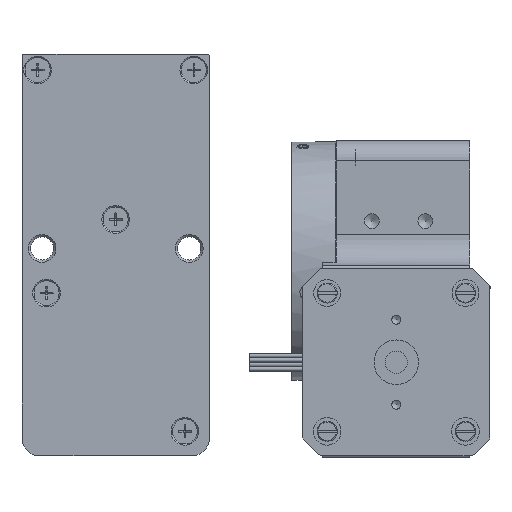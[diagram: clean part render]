
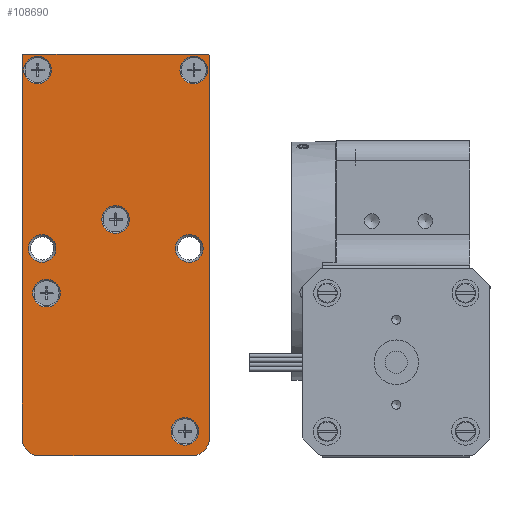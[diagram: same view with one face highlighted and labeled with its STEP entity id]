
A CAD part, left-side view. The second image highlights one B-rep face of the part: STEP entity #108690.
In plain terms, the highlighted planar face has unit normal (-1, 0, 0) as drawn and (0, -1, 0) by its records, which use the part's own axes.
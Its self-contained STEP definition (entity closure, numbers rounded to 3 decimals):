
#53 = EDGE_CURVE ( 'NONE', #93045, #76233, #78821, .T. ) ;
#146 = LINE ( 'NONE', #49999, #90289 ) ;
#351 = EDGE_LOOP ( 'NONE', ( #18074 ) ) ;
#461 = EDGE_LOOP ( 'NONE', ( #35043 ) ) ;
#1886 = DIRECTION ( 'NONE',  ( 0., 1., 0. ) ) ;
#2760 = CIRCLE ( 'NONE', #34567, 3.1 ) ;
#5034 = CARTESIAN_POINT ( 'NONE',  ( -21., 0., -41. ) ) ;
#6063 = DIRECTION ( 'NONE',  ( 0., 0., 1. ) ) ;
#6722 = CIRCLE ( 'NONE', #77523, 3.1 ) ;
#7398 = DIRECTION ( 'NONE',  ( 0., -1., 0. ) ) ;
#7832 = VECTOR ( 'NONE', #60072, 1000. ) ;
#8140 = EDGE_LOOP ( 'NONE', ( #36475 ) ) ;
#8413 = CIRCLE ( 'NONE', #29612, 4. ) ;
#8743 = CARTESIAN_POINT ( 'NONE',  ( 16.5, 0., 1.5 ) ) ;
#10332 = CARTESIAN_POINT ( 'NONE',  ( 17., 0., -45. ) ) ;
#10515 = VERTEX_POINT ( 'NONE', #12162 ) ;
#12029 = DIRECTION ( 'NONE',  ( 0., -1., 0. ) ) ;
#12162 = CARTESIAN_POINT ( 'NONE',  ( 16.5, 0., 4.6 ) ) ;
#12940 = VERTEX_POINT ( 'NONE', #10332 ) ;
#13462 = EDGE_CURVE ( 'NONE', #42922, #42922, #53651, .T. ) ;
#13865 = DIRECTION ( 'NONE',  ( 0., 0., 1. ) ) ;
#15154 = DIRECTION ( 'NONE',  ( 0., 1., 0. ) ) ;
#15787 = CARTESIAN_POINT ( 'NONE',  ( 0., 0., 0. ) ) ;
#18074 = ORIENTED_EDGE ( 'NONE', *, *, #28357, .F. ) ;
#18224 = VECTOR ( 'NONE', #97322, 1000. ) ;
#18595 = CARTESIAN_POINT ( 'NONE',  ( 17.5, 0., 44.6 ) ) ;
#19565 = EDGE_CURVE ( 'NONE', #97748, #83572, #73576, .T. ) ;
#20837 = EDGE_CURVE ( 'NONE', #108268, #93045, #44054, .T. ) ;
#21045 = EDGE_CURVE ( 'NONE', #102748, #102748, #2760, .T. ) ;
#22879 = ORIENTED_EDGE ( 'NONE', *, *, #47290, .F. ) ;
#23017 = FACE_BOUND ( 'NONE', #66240, .T. ) ;
#23999 = CIRCLE ( 'NONE', #89458, 3.1 ) ;
#24122 = FACE_BOUND ( 'NONE', #50689, .T. ) ;
#24526 = ORIENTED_EDGE ( 'NONE', *, *, #79147, .F. ) ;
#24655 = CARTESIAN_POINT ( 'NONE',  ( 21., 0., -41. ) ) ;
#24848 = CARTESIAN_POINT ( 'NONE',  ( 15.5, 0., -39.5 ) ) ;
#26657 = CARTESIAN_POINT ( 'NONE',  ( -16.5, 0., 4.6 ) ) ;
#26756 = CARTESIAN_POINT ( 'NONE',  ( -17., 0., -41. ) ) ;
#27375 = LINE ( 'NONE', #42855, #37133 ) ;
#27881 = CARTESIAN_POINT ( 'NONE',  ( -21., 0., 0. ) ) ;
#28357 = EDGE_CURVE ( 'NONE', #102563, #102563, #6722, .T. ) ;
#29612 = AXIS2_PLACEMENT_3D ( 'NONE', #80576, #15154, #38404 ) ;
#29761 = EDGE_CURVE ( 'NONE', #99508, #57021, #27375, .T. ) ;
#30143 = ORIENTED_EDGE ( 'NONE', *, *, #13462, .F. ) ;
#30353 = DIRECTION ( 'NONE',  ( 0., 0., -1. ) ) ;
#32248 = EDGE_CURVE ( 'NONE', #12940, #108268, #57436, .T. ) ;
#32763 = EDGE_LOOP ( 'NONE', ( #109562, #40445, #57250, #24526, #88184, #76469, #79735, #41385 ) ) ;
#34567 = AXIS2_PLACEMENT_3D ( 'NONE', #85226, #59805, #93517 ) ;
#35043 = ORIENTED_EDGE ( 'NONE', *, *, #92827, .F. ) ;
#36475 = ORIENTED_EDGE ( 'NONE', *, *, #104326, .F. ) ;
#37133 = VECTOR ( 'NONE', #76668, 1000. ) ;
#37361 = AXIS2_PLACEMENT_3D ( 'NONE', #82746, #91539, #98749 ) ;
#37692 = AXIS2_PLACEMENT_3D ( 'NONE', #106421, #89779, #13865 ) ;
#38404 = DIRECTION ( 'NONE',  ( 0., 0., -1. ) ) ;
#40120 = PLANE ( 'NONE',  #87312 ) ;
#40146 = CARTESIAN_POINT ( 'NONE',  ( 0., 0., -45. ) ) ;
#40445 = ORIENTED_EDGE ( 'NONE', *, *, #84325, .F. ) ;
#41137 = DIRECTION ( 'NONE',  ( 0., 0., 1. ) ) ;
#41385 = ORIENTED_EDGE ( 'NONE', *, *, #20837, .F. ) ;
#41427 = VERTEX_POINT ( 'NONE', #41997 ) ;
#41997 = CARTESIAN_POINT ( 'NONE',  ( -17.5, 0., 44.6 ) ) ;
#42737 = CARTESIAN_POINT ( 'NONE',  ( 15.5, 0., -36.4 ) ) ;
#42855 = CARTESIAN_POINT ( 'NONE',  ( 0., 0., 45. ) ) ;
#42922 = VERTEX_POINT ( 'NONE', #59662 ) ;
#44054 = CIRCLE ( 'NONE', #84815, 4. ) ;
#47290 = EDGE_CURVE ( 'NONE', #10515, #10515, #23999, .T. ) ;
#48482 = FACE_OUTER_BOUND ( 'NONE', #32763, .T. ) ;
#48574 = CARTESIAN_POINT ( 'NONE',  ( -20.9, 0., 44.9 ) ) ;
#49999 = CARTESIAN_POINT ( 'NONE',  ( 20.9, 0., 44.9 ) ) ;
#50689 = EDGE_LOOP ( 'NONE', ( #60235 ) ) ;
#51589 = CARTESIAN_POINT ( 'NONE',  ( -15.5, 0., -5.4 ) ) ;
#51690 = DIRECTION ( 'NONE',  ( 0., 0., -1. ) ) ;
#52086 = CIRCLE ( 'NONE', #60729, 3.1 ) ;
#53651 = CIRCLE ( 'NONE', #37692, 3.1 ) ;
#57021 = VERTEX_POINT ( 'NONE', #84933 ) ;
#57250 = ORIENTED_EDGE ( 'NONE', *, *, #19565, .F. ) ;
#57436 = LINE ( 'NONE', #40146, #104778 ) ;
#57944 = FACE_BOUND ( 'NONE', #351, .T. ) ;
#58419 = CARTESIAN_POINT ( 'NONE',  ( -21., 0., 44.8 ) ) ;
#59070 = FACE_BOUND ( 'NONE', #461, .T. ) ;
#59662 = CARTESIAN_POINT ( 'NONE',  ( 0., 0., 11.1 ) ) ;
#59805 = DIRECTION ( 'NONE',  ( 0., -1., 0. ) ) ;
#59950 = VERTEX_POINT ( 'NONE', #51589 ) ;
#60072 = DIRECTION ( 'NONE',  ( 0., 0., 1. ) ) ;
#60235 = ORIENTED_EDGE ( 'NONE', *, *, #87861, .F. ) ;
#60729 = AXIS2_PLACEMENT_3D ( 'NONE', #83331, #7398, #41137 ) ;
#61398 = EDGE_LOOP ( 'NONE', ( #89198 ) ) ;
#62450 = AXIS2_PLACEMENT_3D ( 'NONE', #70310, #86355, #78608 ) ;
#66240 = EDGE_LOOP ( 'NONE', ( #22879 ) ) ;
#66723 = FACE_BOUND ( 'NONE', #8140, .T. ) ;
#69264 = CIRCLE ( 'NONE', #37361, 3.1 ) ;
#69273 = VERTEX_POINT ( 'NONE', #26657 ) ;
#69738 = CARTESIAN_POINT ( 'NONE',  ( -17., 0., -45. ) ) ;
#70310 = CARTESIAN_POINT ( 'NONE',  ( -16.5, 0., 1.5 ) ) ;
#72068 = VECTOR ( 'NONE', #30353, 1000. ) ;
#73576 = LINE ( 'NONE', #81376, #72068 ) ;
#76233 = VERTEX_POINT ( 'NONE', #58419 ) ;
#76469 = ORIENTED_EDGE ( 'NONE', *, *, #80288, .F. ) ;
#76668 = DIRECTION ( 'NONE',  ( 1., 0., 0. ) ) ;
#76904 = CARTESIAN_POINT ( 'NONE',  ( 21., 0., 44.8 ) ) ;
#77523 = AXIS2_PLACEMENT_3D ( 'NONE', #24848, #108505, #6063 ) ;
#78608 = DIRECTION ( 'NONE',  ( 0., 0., 1. ) ) ;
#78821 = LINE ( 'NONE', #27881, #7832 ) ;
#78888 = DIRECTION ( 'NONE',  ( 0., 0., 1. ) ) ;
#79147 = EDGE_CURVE ( 'NONE', #57021, #97748, #146, .T. ) ;
#79328 = DIRECTION ( 'NONE',  ( 0., 1., 0. ) ) ;
#79735 = ORIENTED_EDGE ( 'NONE', *, *, #53, .F. ) ;
#80288 = EDGE_CURVE ( 'NONE', #76233, #99508, #89582, .T. ) ;
#80576 = CARTESIAN_POINT ( 'NONE',  ( 17., 0., -41. ) ) ;
#81376 = CARTESIAN_POINT ( 'NONE',  ( 21., 0., 0. ) ) ;
#81923 = CIRCLE ( 'NONE', #62450, 3.1 ) ;
#82325 = FACE_BOUND ( 'NONE', #104651, .T. ) ;
#82746 = CARTESIAN_POINT ( 'NONE',  ( -15.5, 0., -8.5 ) ) ;
#83331 = CARTESIAN_POINT ( 'NONE',  ( -17.5, 0., 41.5 ) ) ;
#83572 = VERTEX_POINT ( 'NONE', #24655 ) ;
#84325 = EDGE_CURVE ( 'NONE', #83572, #12940, #8413, .T. ) ;
#84815 = AXIS2_PLACEMENT_3D ( 'NONE', #26756, #79328, #51690 ) ;
#84933 = CARTESIAN_POINT ( 'NONE',  ( 20.8, 0., 45. ) ) ;
#85226 = CARTESIAN_POINT ( 'NONE',  ( 17.5, 0., 41.5 ) ) ;
#86355 = DIRECTION ( 'NONE',  ( 0., -1., 0. ) ) ;
#87312 = AXIS2_PLACEMENT_3D ( 'NONE', #15787, #1886, #78888 ) ;
#87861 = EDGE_CURVE ( 'NONE', #69273, #69273, #81923, .T. ) ;
#88184 = ORIENTED_EDGE ( 'NONE', *, *, #29761, .F. ) ;
#89198 = ORIENTED_EDGE ( 'NONE', *, *, #21045, .F. ) ;
#89458 = AXIS2_PLACEMENT_3D ( 'NONE', #8743, #12029, #97296 ) ;
#89582 = LINE ( 'NONE', #48574, #18224 ) ;
#89779 = DIRECTION ( 'NONE',  ( 0., -1., 0. ) ) ;
#90289 = VECTOR ( 'NONE', #99851, 1000. ) ;
#90580 = FACE_BOUND ( 'NONE', #61398, .T. ) ;
#91539 = DIRECTION ( 'NONE',  ( 0., -1., 0. ) ) ;
#91694 = DIRECTION ( 'NONE',  ( -1., 0., 0. ) ) ;
#92827 = EDGE_CURVE ( 'NONE', #59950, #59950, #69264, .T. ) ;
#93045 = VERTEX_POINT ( 'NONE', #5034 ) ;
#93517 = DIRECTION ( 'NONE',  ( 0., 0., 1. ) ) ;
#97296 = DIRECTION ( 'NONE',  ( 0., 0., 1. ) ) ;
#97322 = DIRECTION ( 'NONE',  ( 0.707, 0., 0.707 ) ) ;
#97748 = VERTEX_POINT ( 'NONE', #76904 ) ;
#98749 = DIRECTION ( 'NONE',  ( 0., 0., 1. ) ) ;
#99508 = VERTEX_POINT ( 'NONE', #105030 ) ;
#99851 = DIRECTION ( 'NONE',  ( 0.707, 0., -0.707 ) ) ;
#102563 = VERTEX_POINT ( 'NONE', #42737 ) ;
#102748 = VERTEX_POINT ( 'NONE', #18595 ) ;
#104326 = EDGE_CURVE ( 'NONE', #41427, #41427, #52086, .T. ) ;
#104651 = EDGE_LOOP ( 'NONE', ( #30143 ) ) ;
#104778 = VECTOR ( 'NONE', #91694, 1000. ) ;
#105030 = CARTESIAN_POINT ( 'NONE',  ( -20.8, 0., 45. ) ) ;
#106421 = CARTESIAN_POINT ( 'NONE',  ( 0., 0., 8. ) ) ;
#108268 = VERTEX_POINT ( 'NONE', #69738 ) ;
#108505 = DIRECTION ( 'NONE',  ( 0., -1., 0. ) ) ;
#108690 = ADVANCED_FACE ( 'NONE', ( #24122, #23017, #82325, #57944, #59070, #66723, #90580, #48482 ), #40120, .F. ) ;
#109562 = ORIENTED_EDGE ( 'NONE', *, *, #32248, .F. ) ;
